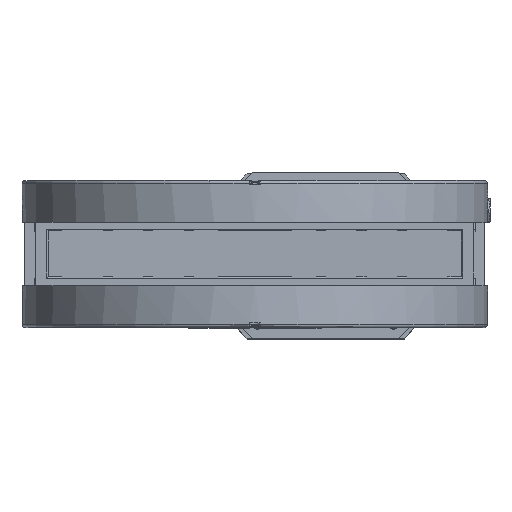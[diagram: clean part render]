
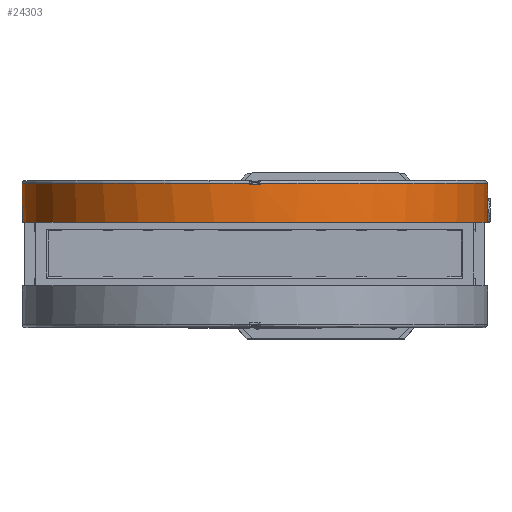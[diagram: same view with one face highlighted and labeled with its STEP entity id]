
A CAD part, top view. The second image highlights one B-rep face of the part: STEP entity #24303.
In plain terms, the highlighted cylindrical face has radius 126.6 mm (diameter 253.2 mm), a full revolution.
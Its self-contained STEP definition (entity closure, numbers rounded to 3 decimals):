
#8175=ELLIPSE('',#58663,223.466,126.6);
#8176=ELLIPSE('',#58664,223.466,126.6);
#8177=ELLIPSE('',#58671,223.466,126.6);
#8178=ELLIPSE('',#58672,223.466,126.6);
#17769=LINE('',#78470,#21371);
#17770=LINE('',#78475,#21372);
#17771=LINE('',#78479,#21373);
#17772=LINE('',#78483,#21374);
#21371=VECTOR('',#65017,1.);
#21372=VECTOR('',#65020,1.);
#21373=VECTOR('',#65023,1.);
#21374=VECTOR('',#65026,1.);
#24303=ADVANCED_FACE('BCT_REF_61925',(#27251,#27252,#27253,#27254),#26522,
 .T.);
#26522=CYLINDRICAL_SURFACE('',#58674,126.6);
#27251=FACE_BOUND('',#29586,.T.);
#27252=FACE_BOUND('',#29587,.T.);
#27253=FACE_BOUND('',#29588,.T.);
#27254=FACE_BOUND('',#29589,.T.);
#29586=EDGE_LOOP('',(#36019,#36020,#36021));
#29587=EDGE_LOOP('',(#36022,#36023,#36024,#36025,#36026,#36027,#36028,#36029));
#29588=EDGE_LOOP('',(#36030));
#29589=EDGE_LOOP('',(#36031,#36032,#36033));
#36019=ORIENTED_EDGE('',*,*,#51727,.T.);
#36020=ORIENTED_EDGE('',*,*,#51728,.T.);
#36021=ORIENTED_EDGE('',*,*,#51729,.T.);
#36022=ORIENTED_EDGE('',*,*,#51730,.T.);
#36023=ORIENTED_EDGE('',*,*,#51731,.T.);
#36024=ORIENTED_EDGE('',*,*,#51732,.F.);
#36025=ORIENTED_EDGE('',*,*,#51733,.F.);
#36026=ORIENTED_EDGE('',*,*,#51734,.T.);
#36027=ORIENTED_EDGE('',*,*,#51735,.T.);
#36028=ORIENTED_EDGE('',*,*,#51736,.F.);
#36029=ORIENTED_EDGE('',*,*,#51737,.T.);
#36030=ORIENTED_EDGE('',*,*,#51738,.T.);
#36031=ORIENTED_EDGE('',*,*,#51739,.F.);
#36032=ORIENTED_EDGE('',*,*,#51740,.F.);
#36033=ORIENTED_EDGE('',*,*,#51741,.F.);
#46636=VERTEX_POINT('',#78465);
#46637=VERTEX_POINT('',#78466);
#46638=VERTEX_POINT('',#78468);
#46639=VERTEX_POINT('',#78471);
#46640=VERTEX_POINT('',#78472);
#46641=VERTEX_POINT('',#78474);
#46642=VERTEX_POINT('',#78476);
#46643=VERTEX_POINT('',#78478);
#46644=VERTEX_POINT('',#78480);
#46645=VERTEX_POINT('',#78482);
#46646=VERTEX_POINT('',#78484);
#46647=VERTEX_POINT('',#78487);
#46648=VERTEX_POINT('',#78489);
#46649=VERTEX_POINT('',#78490);
#46650=VERTEX_POINT('',#78492);
#51727=EDGE_CURVE('',#46636,#46637,#8175,.T.);
#51728=EDGE_CURVE('',#46637,#46638,#8176,.T.);
#51729=EDGE_CURVE('',#46638,#46636,#56546,.T.);
#51730=EDGE_CURVE('',#46639,#46640,#17769,.T.);
#51731=EDGE_CURVE('',#46640,#46641,#56547,.T.);
#51732=EDGE_CURVE('',#46642,#46641,#17770,.T.);
#51733=EDGE_CURVE('',#46643,#46642,#56548,.T.);
#51734=EDGE_CURVE('',#46643,#46644,#17771,.T.);
#51735=EDGE_CURVE('',#46644,#46645,#56549,.T.);
#51736=EDGE_CURVE('',#46646,#46645,#17772,.T.);
#51737=EDGE_CURVE('',#46646,#46639,#56550,.T.);
#51738=EDGE_CURVE('',#46647,#46647,#56551,.T.);
#51739=EDGE_CURVE('',#46648,#46649,#8177,.T.);
#51740=EDGE_CURVE('',#46650,#46648,#8178,.T.);
#51741=EDGE_CURVE('',#46649,#46650,#56552,.T.);
#56546=CIRCLE('',#58665,126.6);
#56547=CIRCLE('',#58666,126.6);
#56548=CIRCLE('',#58667,126.6);
#56549=CIRCLE('',#58668,126.6);
#56550=CIRCLE('',#58669,126.6);
#56551=CIRCLE('',#58670,126.6);
#56552=CIRCLE('',#58673,126.6);
#58663=AXIS2_PLACEMENT_3D('',#78464,#65011,#65012);
#58664=AXIS2_PLACEMENT_3D('',#78467,#65013,#65014);
#58665=AXIS2_PLACEMENT_3D('',#78469,#65015,#65016);
#58666=AXIS2_PLACEMENT_3D('',#78473,#65018,#65019);
#58667=AXIS2_PLACEMENT_3D('',#78477,#65021,#65022);
#58668=AXIS2_PLACEMENT_3D('',#78481,#65024,#65025);
#58669=AXIS2_PLACEMENT_3D('',#78485,#65027,#65028);
#58670=AXIS2_PLACEMENT_3D('',#78486,#65029,#65030);
#58671=AXIS2_PLACEMENT_3D('',#78488,#65031,#65032);
#58672=AXIS2_PLACEMENT_3D('',#78491,#65033,#65034);
#58673=AXIS2_PLACEMENT_3D('',#78493,#65035,#65036);
#58674=AXIS2_PLACEMENT_3D('',#78494,#65037,#65038);
#65011=DIRECTION('',(0.,-0.567,0.824));
#65012=DIRECTION('',(0.,0.824,0.567));
#65013=DIRECTION('',(0.,-0.567,-0.824));
#65014=DIRECTION('',(0.,0.824,-0.567));
#65015=DIRECTION('',(0.,1.,0.));
#65016=DIRECTION('',(0.,0.,1.));
#65017=DIRECTION('',(0.,1.,0.));
#65018=DIRECTION('',(0.,-1.,0.));
#65019=DIRECTION('',(0.,0.,-1.));
#65020=DIRECTION('',(0.,1.,0.));
#65021=DIRECTION('',(0.,1.,0.));
#65022=DIRECTION('',(0.,0.,1.));
#65023=DIRECTION('',(0.,1.,0.));
#65024=DIRECTION('',(0.,-1.,0.));
#65025=DIRECTION('',(0.,0.,-1.));
#65026=DIRECTION('',(0.,1.,0.));
#65027=DIRECTION('',(0.,-1.,0.));
#65028=DIRECTION('',(0.,0.,1.));
#65029=DIRECTION('',(0.,1.,0.));
#65030=DIRECTION('',(0.,0.,1.));
#65031=DIRECTION('',(0.,0.567,0.824));
#65032=DIRECTION('',(0.,0.824,-0.567));
#65033=DIRECTION('',(0.,0.567,-0.824));
#65034=DIRECTION('',(0.,0.824,0.567));
#65035=DIRECTION('',(0.,-1.,0.));
#65036=DIRECTION('',(0.,0.,-1.));
#65037=DIRECTION('',(0.,1.,0.));
#65038=DIRECTION('',(0.,0.,1.));
#78464=CARTESIAN_POINT('',(0.,27.95,412.));
#78465=CARTESIAN_POINT('',(-126.57,31.95,414.75));
#78466=CARTESIAN_POINT('',(-126.6,27.95,412.));
#78467=CARTESIAN_POINT('',(0.,27.95,412.));
#78468=CARTESIAN_POINT('',(-126.57,31.95,409.25));
#78469=CARTESIAN_POINT('',(0.,31.95,412.));
#78470=CARTESIAN_POINT('',(-3.,37.45,538.564));
#78471=CARTESIAN_POINT('',(-3.,37.45,538.564));
#78472=CARTESIAN_POINT('',(-3.,38.45,538.564));
#78473=CARTESIAN_POINT('',(0.,38.45,412.));
#78474=CARTESIAN_POINT('',(-3.,38.45,285.436));
#78475=CARTESIAN_POINT('',(-3.,37.45,285.436));
#78476=CARTESIAN_POINT('',(-3.,37.45,285.436));
#78477=CARTESIAN_POINT('',(0.,37.45,412.));
#78478=CARTESIAN_POINT('',(3.,37.45,285.436));
#78479=CARTESIAN_POINT('',(3.,37.45,285.436));
#78480=CARTESIAN_POINT('',(3.,38.45,285.436));
#78481=CARTESIAN_POINT('',(0.,38.45,412.));
#78482=CARTESIAN_POINT('',(3.,38.45,538.564));
#78483=CARTESIAN_POINT('',(3.,37.45,538.564));
#78484=CARTESIAN_POINT('',(3.,37.45,538.564));
#78485=CARTESIAN_POINT('',(0.,37.45,412.));
#78486=CARTESIAN_POINT('',(0.,17.25,412.));
#78487=CARTESIAN_POINT('',(0.,17.25,538.6));
#78488=CARTESIAN_POINT('',(0.,27.95,412.));
#78489=CARTESIAN_POINT('',(126.6,27.95,412.));
#78490=CARTESIAN_POINT('',(126.57,31.95,409.25));
#78491=CARTESIAN_POINT('',(0.,27.95,412.));
#78492=CARTESIAN_POINT('',(126.57,31.95,414.75));
#78493=CARTESIAN_POINT('',(0.,31.95,412.));
#78494=CARTESIAN_POINT('',(0.,38.65,412.));
